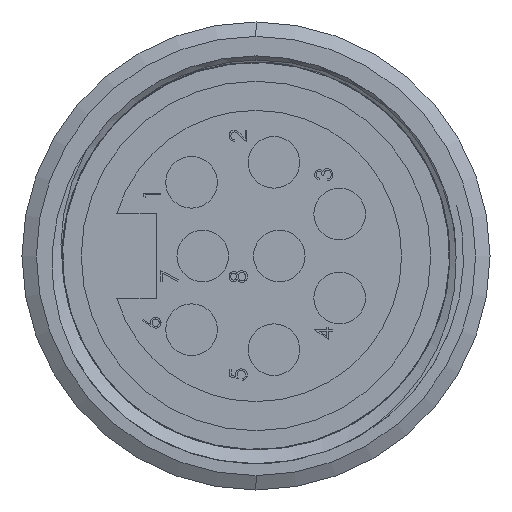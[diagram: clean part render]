
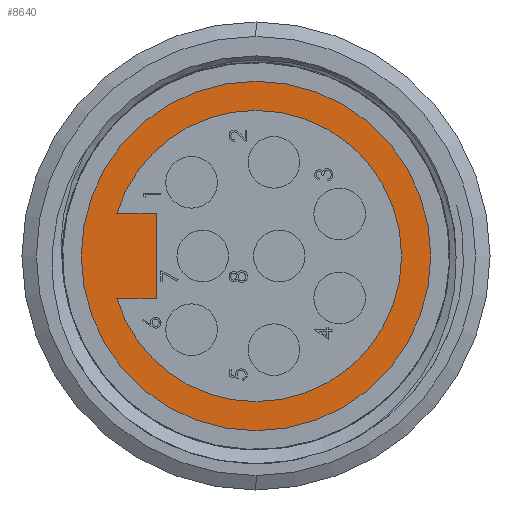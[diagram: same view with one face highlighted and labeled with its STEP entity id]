
A CAD part, left-side view. The second image highlights one B-rep face of the part: STEP entity #8640.
In plain terms, the highlighted planar face has unit normal (-1, 0, 0).
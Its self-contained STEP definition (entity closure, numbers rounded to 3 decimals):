
#465 = LINE ( 'NONE', #476, #3530 ) ;
#476 = CARTESIAN_POINT ( 'NONE',  ( 6.35, 8.5, 2.604 ) ) ;
#478 = DIRECTION ( 'NONE',  ( 0., 1., 0. ) ) ;
#2352 = CARTESIAN_POINT ( 'NONE',  ( 6.35, 0., 0. ) ) ;
#2353 = DIRECTION ( 'NONE',  ( -1., 0., 0. ) ) ;
#2354 = DIRECTION ( 'NONE',  ( 0., 0., 1. ) ) ;
#2813 = LINE ( 'NONE', #2814, #7494 ) ;
#2814 = CARTESIAN_POINT ( 'NONE',  ( 6.35, 8.5, -2.604 ) ) ;
#2815 = DIRECTION ( 'NONE',  ( 0., -1., 0. ) ) ;
#3367 = CIRCLE ( 'NONE', #3383, 8.89 ) ;
#3383 = AXIS2_PLACEMENT_3D ( 'NONE', #13891, #13893, #13895 ) ;
#3530 = VECTOR ( 'NONE', #478, 1000. ) ;
#4867 = FACE_BOUND ( 'NONE', #9389, .T. ) ;
#4869 = FACE_OUTER_BOUND ( 'NONE', #10401, .T. ) ;
#4870 = PLANE ( 'NONE',  #8938 ) ;
#4879 = CARTESIAN_POINT ( 'NONE',  ( 6.35, 8.89, 0. ) ) ;
#4880 = DIRECTION ( 'NONE',  ( 1., 0., 0. ) ) ;
#4881 = DIRECTION ( 'NONE',  ( 0., 0., -1. ) ) ;
#5488 = EDGE_CURVE ( 'NONE', #7894, #8083, #465, .T. ) ;
#5561 = EDGE_CURVE ( 'NONE', #7886, #8151, #3367, .T. ) ;
#5599 = EDGE_CURVE ( 'NONE', #8060, #8009, #6049, .T. ) ;
#5759 = EDGE_CURVE ( 'NONE', #8009, #8060, #6122, .T. ) ;
#5774 = EDGE_CURVE ( 'NONE', #7946, #7894, #14584, .T. ) ;
#5791 = EDGE_CURVE ( 'NONE', #8151, #8042, #6208, .T. ) ;
#6049 = CIRCLE ( 'NONE', #6421, 10.668 ) ;
#6122 = CIRCLE ( 'NONE', #6129, 10.668 ) ;
#6129 = AXIS2_PLACEMENT_3D ( 'NONE', #14519, #14520, #14521 ) ;
#6208 = CIRCLE ( 'NONE', #6250, 8.89 ) ;
#6250 = AXIS2_PLACEMENT_3D ( 'NONE', #14701, #14702, #14703 ) ;
#6270 = VECTOR ( 'NONE', #14598, 1000. ) ;
#6421 = AXIS2_PLACEMENT_3D ( 'NONE', #13031, #13032, #13033 ) ;
#7419 = CIRCLE ( 'NONE', #7421, 8.89 ) ;
#7421 = AXIS2_PLACEMENT_3D ( 'NONE', #2352, #2353, #2354 ) ;
#7494 = VECTOR ( 'NONE', #2815, 1000. ) ;
#7886 = VERTEX_POINT ( 'NONE', #10874 ) ;
#7894 = VERTEX_POINT ( 'NONE', #10890 ) ;
#7946 = VERTEX_POINT ( 'NONE', #10994 ) ;
#8009 = VERTEX_POINT ( 'NONE', #11120 ) ;
#8042 = VERTEX_POINT ( 'NONE', #11176 ) ;
#8060 = VERTEX_POINT ( 'NONE', #11212 ) ;
#8083 = VERTEX_POINT ( 'NONE', #11241 ) ;
#8151 = VERTEX_POINT ( 'NONE', #11266 ) ;
#8640 = ADVANCED_FACE ( 'NONE', ( #4867, #4869 ), #4870, .F. ) ;
#8938 = AXIS2_PLACEMENT_3D ( 'NONE', #4879, #4880, #4881 ) ;
#9389 = EDGE_LOOP ( 'NONE', ( #9674, #9936, #9891, #9969, #9676, #9700 ) ) ;
#9453 = EDGE_CURVE ( 'NONE', #8042, #8083, #7419, .T. ) ;
#9529 = EDGE_CURVE ( 'NONE', #7886, #7946, #2813, .T. ) ;
#9674 = ORIENTED_EDGE ( 'NONE', *, *, #5561, .F. ) ;
#9676 = ORIENTED_EDGE ( 'NONE', *, *, #9453, .F. ) ;
#9700 = ORIENTED_EDGE ( 'NONE', *, *, #5791, .F. ) ;
#9891 = ORIENTED_EDGE ( 'NONE', *, *, #5774, .T. ) ;
#9936 = ORIENTED_EDGE ( 'NONE', *, *, #9529, .T. ) ;
#9969 = ORIENTED_EDGE ( 'NONE', *, *, #5488, .T. ) ;
#9979 = ORIENTED_EDGE ( 'NONE', *, *, #5759, .T. ) ;
#9990 = ORIENTED_EDGE ( 'NONE', *, *, #5599, .T. ) ;
#10401 = EDGE_LOOP ( 'NONE', ( #9990, #9979 ) ) ;
#10874 = CARTESIAN_POINT ( 'NONE',  ( 6.35, 8.5, -2.604 ) ) ;
#10890 = CARTESIAN_POINT ( 'NONE',  ( 6.35, 6.096, 2.603 ) ) ;
#10994 = CARTESIAN_POINT ( 'NONE',  ( 6.35, 6.096, -2.603 ) ) ;
#11120 = CARTESIAN_POINT ( 'NONE',  ( 6.35, 0., -10.668 ) ) ;
#11176 = CARTESIAN_POINT ( 'NONE',  ( 6.35, 0., 8.89 ) ) ;
#11212 = CARTESIAN_POINT ( 'NONE',  ( 6.35, 0., 10.668 ) ) ;
#11241 = CARTESIAN_POINT ( 'NONE',  ( 6.35, 8.5, 2.604 ) ) ;
#11266 = CARTESIAN_POINT ( 'NONE',  ( 6.35, 0., -8.89 ) ) ;
#13031 = CARTESIAN_POINT ( 'NONE',  ( 6.35, 0., 0. ) ) ;
#13032 = DIRECTION ( 'NONE',  ( -1., 0., 0. ) ) ;
#13033 = DIRECTION ( 'NONE',  ( 0., 0., 1. ) ) ;
#13891 = CARTESIAN_POINT ( 'NONE',  ( 6.35, 0., 0. ) ) ;
#13893 = DIRECTION ( 'NONE',  ( -1., 0., 0. ) ) ;
#13895 = DIRECTION ( 'NONE',  ( 0., 0., 1. ) ) ;
#14519 = CARTESIAN_POINT ( 'NONE',  ( 6.35, 0., 0. ) ) ;
#14520 = DIRECTION ( 'NONE',  ( -1., 0., 0. ) ) ;
#14521 = DIRECTION ( 'NONE',  ( 0., 0., 1. ) ) ;
#14584 = LINE ( 'NONE', #14597, #6270 ) ;
#14597 = CARTESIAN_POINT ( 'NONE',  ( 6.35, 6.096, -2.603 ) ) ;
#14598 = DIRECTION ( 'NONE',  ( 0., 0., 1. ) ) ;
#14701 = CARTESIAN_POINT ( 'NONE',  ( 6.35, 0., 0. ) ) ;
#14702 = DIRECTION ( 'NONE',  ( -1., 0., 0. ) ) ;
#14703 = DIRECTION ( 'NONE',  ( 0., 0., 1. ) ) ;
